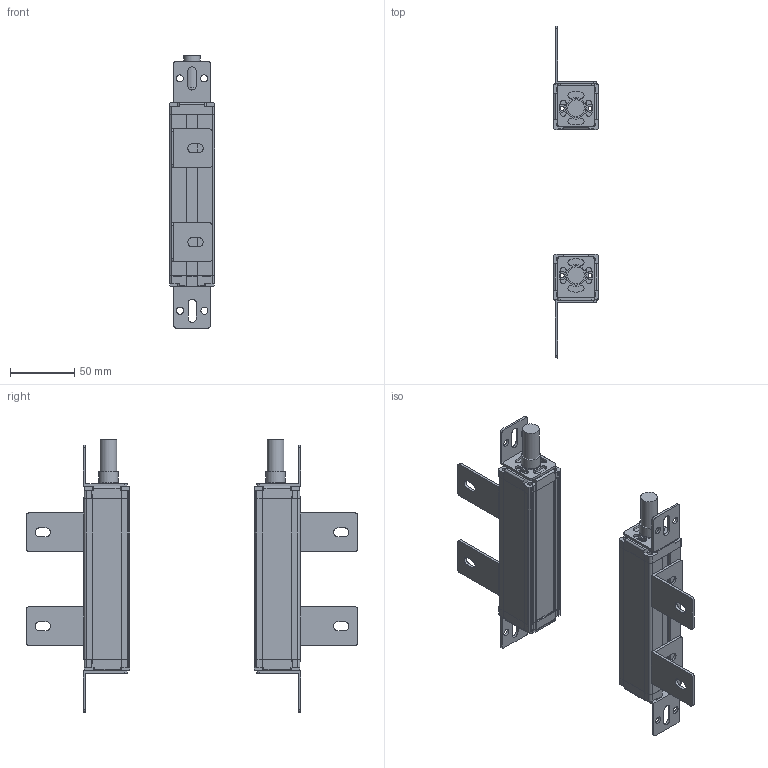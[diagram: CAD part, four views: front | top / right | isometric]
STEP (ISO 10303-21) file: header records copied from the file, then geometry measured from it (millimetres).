
FILE_DESCRIPTION(/* description */ (''),/* implementation_level */ '2;1');
FILE_NAME(/* name */ '1010_35X35_stp_stp.stp',/* time_stamp */ '2023-09-18T16:55:14+08:00',/* author */ (''),/* organization */ (''),/* preprocessor_version */ 'ST-DEVELOPER v16.7',/* originating_system */ 'SIEMENS PLM Software NX 12.0',/* authorisation */ '');
FILE_SCHEMA (('AP203_CONFIGURATION_CONTROLLED_3D_DESIGN_OF_MECHANICAL_PARTS_AND_ASSEMBLIES_MIM_LF { 1 0 10303 403 2 1 2}'));
Length unit declared in the file: millimetre
Products named in the file (1): 0420_35X35_stp_stp
Bounding box: 35.41 x 258.01 x 211.6 mm (x, y, z)
Volume: 183250.4 mm3; surface area: 148479.4 mm2
Topology: 28 solids, 28 shells, 1182 faces, 3360 edges, 2260 vertices
Faces by surface type: plane 658, cylinder 464, cone 60
Full cylindrical faces by diameter (mm): 3.2 x8, 6 x24, 13 x2, 14.4 x2, 15 x2
Entity records: 39055 total; most frequent: DIRECTION 6832, CARTESIAN_POINT 6745, ORIENTED_EDGE 6612, EDGE_CURVE 3306, AXIS2_PLACEMENT_3D 2347, VERTEX_POINT 2244, LINE 2138, VECTOR 2138
